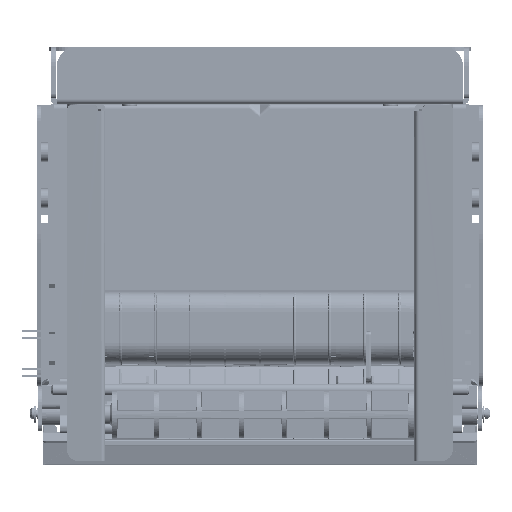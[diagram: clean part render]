
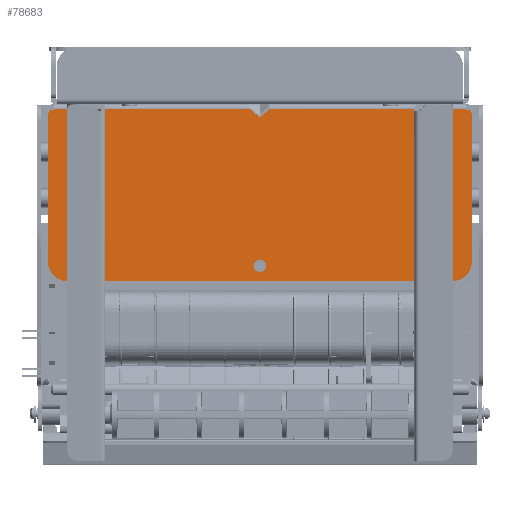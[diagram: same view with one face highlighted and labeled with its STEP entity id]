
A CAD part, left-side view. The second image highlights one B-rep face of the part: STEP entity #78683.
In plain terms, the highlighted planar face has unit normal (-1, 0, 0).
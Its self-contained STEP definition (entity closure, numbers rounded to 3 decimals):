
#36063=DIRECTION('',(0.,1.,0.));
#36064=VECTOR('',#36063,39.641);
#36065=CARTESIAN_POINT('',(-3.2,2.679,27.8));
#36066=LINE('',#36065,#36064);
#36138=DIRECTION('',(0.,1.,0.));
#36139=VECTOR('',#36138,39.641);
#36140=CARTESIAN_POINT('',(-3.2,-42.321,27.8));
#36141=LINE('',#36140,#36139);
#36185=DIRECTION('',(0.,1.,0.));
#36186=VECTOR('',#36185,6.071);
#36187=CARTESIAN_POINT('',(-3.2,-53.75,27.8));
#36188=LINE('',#36187,#36186);
#36202=DIRECTION('',(0.,0.,1.));
#36203=VECTOR('',#36202,0.3);
#36204=CARTESIAN_POINT('',(-3.2,-53.75,27.5));
#36205=LINE('',#36204,#36203);
#36565=CARTESIAN_POINT('',(-3.2,47.679,27.8));
#36567=DIRECTION('',(0.,1.,0.));
#36568=VECTOR('',#36567,6.071);
#36569=CARTESIAN_POINT('',(-3.2,47.679,27.8));
#36570=LINE('',#36569,#36568);
#36626=DIRECTION('',(0.,0.762,0.647));
#36627=VECTOR('',#36626,3.514);
#36628=CARTESIAN_POINT('',(-3.2,0.,25.526));
#36629=LINE('',#36628,#36627);
#36630=DIRECTION('',(0.,0.762,-0.647));
#36631=VECTOR('',#36630,3.514);
#36632=CARTESIAN_POINT('',(-3.2,-2.679,27.8));
#36633=LINE('',#36632,#36631);
#36634=DIRECTION('',(0.,0.762,0.647));
#36635=VECTOR('',#36634,3.514);
#36636=CARTESIAN_POINT('',(-3.2,-45.,25.526));
#36637=LINE('',#36636,#36635);
#36638=DIRECTION('',(0.,0.762,-0.647));
#36639=VECTOR('',#36638,3.514);
#36640=CARTESIAN_POINT('',(-3.2,-47.679,27.8));
#36641=LINE('',#36640,#36639);
#36642=CARTESIAN_POINT('',(-3.2,-54.05,26.3));
#36643=DIRECTION('',(-1.,0.,0.));
#36644=DIRECTION('',(0.,-1.,0.));
#36645=AXIS2_PLACEMENT_3D('',#36642,#36643,#36644);
#36647=CARTESIAN_POINT('',(-3.2,-50.25,-12.2));
#36648=DIRECTION('',(-1.,0.,0.));
#36649=DIRECTION('',(0.,0.,-1.));
#36650=AXIS2_PLACEMENT_3D('',#36647,#36648,#36649);
#36652=CARTESIAN_POINT('',(-3.2,50.25,-12.2));
#36653=DIRECTION('',(-1.,0.,0.));
#36654=DIRECTION('',(0.,1.,0.));
#36655=AXIS2_PLACEMENT_3D('',#36652,#36653,#36654);
#36657=CARTESIAN_POINT('',(-3.2,54.05,26.3));
#36658=DIRECTION('',(-1.,0.,0.));
#36659=DIRECTION('',(0.,0.,1.));
#36660=AXIS2_PLACEMENT_3D('',#36657,#36658,#36659);
#36662=DIRECTION('',(0.,0.,-1.));
#36663=VECTOR('',#36662,0.3);
#36664=CARTESIAN_POINT('',(-3.2,53.75,27.8));
#36665=LINE('',#36664,#36663);
#36666=DIRECTION('',(0.,0.762,0.647));
#36667=VECTOR('',#36666,3.514);
#36668=CARTESIAN_POINT('',(-3.2,45.,25.526));
#36669=LINE('',#36668,#36667);
#36670=DIRECTION('',(0.,0.762,-0.647));
#36671=VECTOR('',#36670,3.514);
#36672=CARTESIAN_POINT('',(-3.2,42.321,27.8));
#36673=LINE('',#36672,#36671);
#36674=CARTESIAN_POINT('',(-3.2,0.,-13.2));
#36675=DIRECTION('',(1.,0.,0.));
#36676=DIRECTION('',(0.,-1.,0.));
#36677=AXIS2_PLACEMENT_3D('',#36674,#36675,#36676);
#36679=CARTESIAN_POINT('',(-3.2,0.,-13.2));
#36680=DIRECTION('',(1.,0.,0.));
#36681=DIRECTION('',(0.,1.,0.));
#36682=AXIS2_PLACEMENT_3D('',#36679,#36680,#36681);
#36814=DIRECTION('',(0.,-1.,0.));
#36815=VECTOR('',#36814,0.3);
#36816=CARTESIAN_POINT('',(-3.2,-53.75,27.5));
#36817=LINE('',#36816,#36815);
#36838=DIRECTION('',(0.,0.,-1.));
#36839=VECTOR('',#36838,38.5);
#36840=CARTESIAN_POINT('',(-3.2,-55.25,26.3));
#36841=LINE('',#36840,#36839);
#36854=DIRECTION('',(0.,1.,0.));
#36855=VECTOR('',#36854,100.5);
#36856=CARTESIAN_POINT('',(-3.2,-50.25,-17.2));
#36857=LINE('',#36856,#36855);
#36870=DIRECTION('',(0.,0.,-1.));
#36871=VECTOR('',#36870,38.5);
#36872=CARTESIAN_POINT('',(-3.2,55.25,26.3));
#36873=LINE('',#36872,#36871);
#36890=DIRECTION('',(0.,-1.,0.));
#36891=VECTOR('',#36890,0.3);
#36892=CARTESIAN_POINT('',(-3.2,54.05,27.5));
#36893=LINE('',#36892,#36891);
#61129=CARTESIAN_POINT('',(-3.2,53.75,27.8));
#61130=VERTEX_POINT('',#61129);
#61133=CARTESIAN_POINT('',(-3.2,53.75,27.5));
#61134=VERTEX_POINT('',#61133);
#61135=VERTEX_POINT('',#36565);
#61143=CARTESIAN_POINT('',(-3.2,45.,25.526));
#61144=VERTEX_POINT('',#61143);
#61145=CARTESIAN_POINT('',(-3.2,0.,25.526));
#61146=CARTESIAN_POINT('',(-3.2,2.679,27.8));
#61147=VERTEX_POINT('',#61145);
#61148=VERTEX_POINT('',#61146);
#61149=CARTESIAN_POINT('',(-3.2,-2.679,27.8));
#61150=VERTEX_POINT('',#61149);
#61151=CARTESIAN_POINT('',(-3.2,-42.321,27.8));
#61152=VERTEX_POINT('',#61151);
#61153=CARTESIAN_POINT('',(-3.2,-45.,25.526));
#61154=VERTEX_POINT('',#61153);
#61155=CARTESIAN_POINT('',(-3.2,-47.679,27.8));
#61156=VERTEX_POINT('',#61155);
#61157=CARTESIAN_POINT('',(-3.2,-53.75,27.8));
#61158=VERTEX_POINT('',#61157);
#61159=CARTESIAN_POINT('',(-3.2,-53.75,27.5));
#61160=VERTEX_POINT('',#61159);
#61161=CARTESIAN_POINT('',(-3.2,-54.05,27.5));
#61162=VERTEX_POINT('',#61161);
#61163=CARTESIAN_POINT('',(-3.2,-55.25,26.3));
#61164=VERTEX_POINT('',#61163);
#61165=CARTESIAN_POINT('',(-3.2,-55.25,-12.2));
#61166=VERTEX_POINT('',#61165);
#61167=CARTESIAN_POINT('',(-3.2,-50.25,-17.2));
#61168=VERTEX_POINT('',#61167);
#61169=CARTESIAN_POINT('',(-3.2,50.25,-17.2));
#61170=VERTEX_POINT('',#61169);
#61171=CARTESIAN_POINT('',(-3.2,55.25,-12.2));
#61172=VERTEX_POINT('',#61171);
#61173=CARTESIAN_POINT('',(-3.2,55.25,26.3));
#61174=VERTEX_POINT('',#61173);
#61175=CARTESIAN_POINT('',(-3.2,54.05,27.5));
#61176=VERTEX_POINT('',#61175);
#61177=CARTESIAN_POINT('',(-3.2,42.321,27.8));
#61178=VERTEX_POINT('',#61177);
#61179=CARTESIAN_POINT('',(-3.2,-1.6,-13.2));
#61180=CARTESIAN_POINT('',(-3.2,1.6,-13.2));
#61181=VERTEX_POINT('',#61179);
#61182=VERTEX_POINT('',#61180);
#78635=CARTESIAN_POINT('',(-3.2,0.,5.3));
#78636=DIRECTION('',(1.,0.,0.));
#78637=DIRECTION('',(0.,0.,-1.));
#78638=AXIS2_PLACEMENT_3D('',#78635,#78636,#78637);
#78639=PLANE('',#78638);
#78641=ORIENTED_EDGE('',*,*,#78640,.F.);
#78643=ORIENTED_EDGE('',*,*,#78642,.F.);
#78644=ORIENTED_EDGE('',*,*,#77575,.F.);
#78646=ORIENTED_EDGE('',*,*,#78645,.F.);
#78648=ORIENTED_EDGE('',*,*,#78647,.F.);
#78649=ORIENTED_EDGE('',*,*,#77793,.F.);
#78650=ORIENTED_EDGE('',*,*,#77811,.F.);
#78652=ORIENTED_EDGE('',*,*,#78651,.T.);
#78654=ORIENTED_EDGE('',*,*,#78653,.F.);
#78656=ORIENTED_EDGE('',*,*,#78655,.T.);
#78658=ORIENTED_EDGE('',*,*,#78657,.F.);
#78660=ORIENTED_EDGE('',*,*,#78659,.T.);
#78662=ORIENTED_EDGE('',*,*,#78661,.F.);
#78664=ORIENTED_EDGE('',*,*,#78663,.F.);
#78666=ORIENTED_EDGE('',*,*,#78665,.F.);
#78668=ORIENTED_EDGE('',*,*,#78667,.T.);
#78669=ORIENTED_EDGE('',*,*,#78480,.F.);
#78670=ORIENTED_EDGE('',*,*,#78499,.F.);
#78671=ORIENTED_EDGE('',*,*,#78626,.F.);
#78673=ORIENTED_EDGE('',*,*,#78672,.F.);
#78674=ORIENTED_EDGE('',*,*,#77358,.F.);
#78675=EDGE_LOOP('',(#78641,#78643,#78644,#78646,#78648,#78649,#78650,#78652,
#78654,#78656,#78658,#78660,#78662,#78664,#78666,#78668,#78669,#78670,#78671,
#78673,#78674));
#78676=FACE_OUTER_BOUND('',#78675,.F.);
#78678=ORIENTED_EDGE('',*,*,#78677,.F.);
#78680=ORIENTED_EDGE('',*,*,#78679,.F.);
#78681=EDGE_LOOP('',(#78678,#78680));
#78682=FACE_BOUND('',#78681,.F.);
#78683=ADVANCED_FACE('',(#78676,#78682),#78639,.F.);
#36646=CIRCLE('',#36645,1.2);
#36651=CIRCLE('',#36650,5.);
#36656=CIRCLE('',#36655,5.);
#36661=CIRCLE('',#36660,1.2);
#36678=CIRCLE('',#36677,1.6);
#36683=CIRCLE('',#36682,1.6);
#77358=EDGE_CURVE('',#61148,#61178,#36066,.T.);
#77575=EDGE_CURVE('',#61152,#61150,#36141,.T.);
#77793=EDGE_CURVE('',#61158,#61156,#36188,.T.);
#77811=EDGE_CURVE('',#61160,#61158,#36205,.T.);
#78480=EDGE_CURVE('',#61130,#61134,#36665,.T.);
#78499=EDGE_CURVE('',#61135,#61130,#36570,.T.);
#78626=EDGE_CURVE('',#61144,#61135,#36669,.T.);
#78640=EDGE_CURVE('',#61147,#61148,#36629,.T.);
#78642=EDGE_CURVE('',#61150,#61147,#36633,.T.);
#78645=EDGE_CURVE('',#61154,#61152,#36637,.T.);
#78647=EDGE_CURVE('',#61156,#61154,#36641,.T.);
#78651=EDGE_CURVE('',#61160,#61162,#36817,.T.);
#78653=EDGE_CURVE('',#61164,#61162,#36646,.T.);
#78655=EDGE_CURVE('',#61164,#61166,#36841,.T.);
#78657=EDGE_CURVE('',#61168,#61166,#36651,.T.);
#78659=EDGE_CURVE('',#61168,#61170,#36857,.T.);
#78661=EDGE_CURVE('',#61172,#61170,#36656,.T.);
#78663=EDGE_CURVE('',#61174,#61172,#36873,.T.);
#78665=EDGE_CURVE('',#61176,#61174,#36661,.T.);
#78667=EDGE_CURVE('',#61176,#61134,#36893,.T.);
#78672=EDGE_CURVE('',#61178,#61144,#36673,.T.);
#78677=EDGE_CURVE('',#61181,#61182,#36678,.T.);
#78679=EDGE_CURVE('',#61182,#61181,#36683,.T.);
